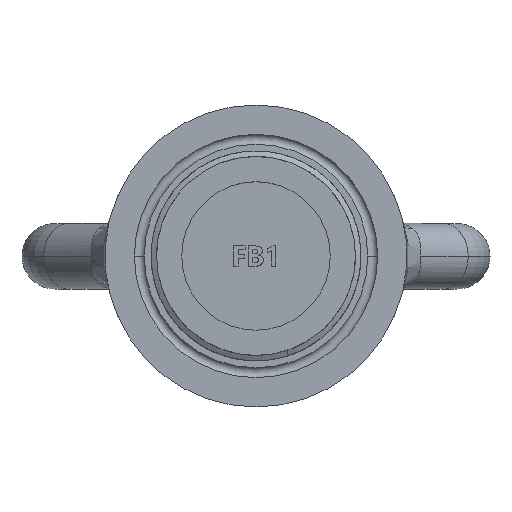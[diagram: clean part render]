
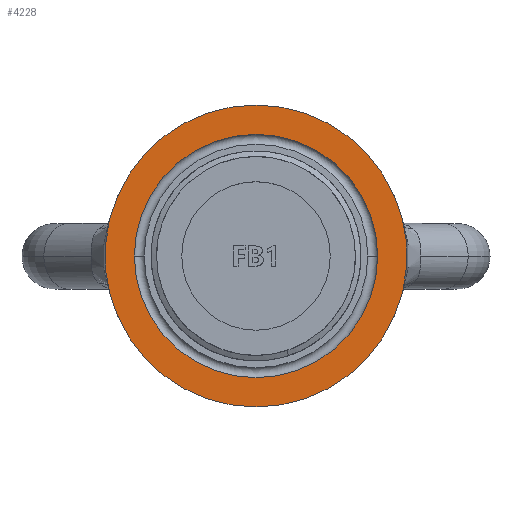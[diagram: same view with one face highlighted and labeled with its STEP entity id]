
A CAD part, top view. The second image highlights one B-rep face of the part: STEP entity #4228.
In plain terms, the highlighted planar face has unit normal (0, 0, 1).
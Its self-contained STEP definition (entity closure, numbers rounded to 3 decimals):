
#56 = DIRECTION ( 'NONE',  ( 1., 0., 0. ) ) ;
#168 = CARTESIAN_POINT ( 'NONE',  ( 75., -5.116, -61.514 ) ) ;
#273 = ORIENTED_EDGE ( 'NONE', *, *, #1366, .T. ) ;
#435 = EDGE_LOOP ( 'NONE', ( #3807, #273, #3146, #654 ) ) ;
#624 = FACE_OUTER_BOUND ( 'NONE', #435, .T. ) ;
#654 = ORIENTED_EDGE ( 'NONE', *, *, #2833, .T. ) ;
#673 = FACE_BOUND ( 'NONE', #982, .T. ) ;
#746 = EDGE_CURVE ( 'NONE', #4065, #3647, #4547, .T. ) ;
#800 = VERTEX_POINT ( 'NONE', #3683 ) ;
#883 = B_SPLINE_CURVE_WITH_KNOTS ( 'NONE', 3,
 ( #3928, #4406, #4845, #4759, #2681, #5249, #4375, #3479, #5190, #2227 ),
 .UNSPECIFIED., .F., .F.,
 ( 4, 2, 2, 2, 4 ),
 ( 0., 0.25, 0.5, 0.75, 1. ),
 .UNSPECIFIED. ) ;
#982 = EDGE_LOOP ( 'NONE', ( #4552, #5330 ) ) ;
#1065 = CARTESIAN_POINT ( 'NONE',  ( 74.482, -10.181, -61.514 ) ) ;
#1269 = CIRCLE ( 'NONE', #3591, 60.429 ) ;
#1366 = EDGE_CURVE ( 'NONE', #2907, #4065, #883, .T. ) ;
#1376 = CARTESIAN_POINT ( 'NONE',  ( 72.409, 20.201, -61.514 ) ) ;
#1379 = VERTEX_POINT ( 'NONE', #5162 ) ;
#1439 = AXIS2_PLACEMENT_3D ( 'NONE', #4042, #3598, #3649 ) ;
#1478 = CARTESIAN_POINT ( 'NONE',  ( 72.409, -20.201, -61.514 ) ) ;
#1596 = CARTESIAN_POINT ( 'NONE',  ( 60.429, 0., -61.514 ) ) ;
#1631 = CARTESIAN_POINT ( 'NONE',  ( 0., 0., -61.514 ) ) ;
#1710 = DIRECTION ( 'NONE',  ( 0., 0., 1. ) ) ;
#1989 = B_SPLINE_CURVE_WITH_KNOTS ( 'NONE', 3,
 ( #3997, #4390, #1478, #1065, #168, #2771, #2663, #1376, #4464, #4857 ),
 .UNSPECIFIED., .F., .F.,
 ( 4, 2, 2, 2, 4 ),
 ( 0., 0.25, 0.5, 0.75, 1. ),
 .UNSPECIFIED. ) ;
#1994 = EDGE_CURVE ( 'NONE', #800, #2907, #5100, .T. ) ;
#2054 = AXIS2_PLACEMENT_3D ( 'NONE', #3893, #1710, #56 ) ;
#2227 = CARTESIAN_POINT ( 'NONE',  ( -68.847, -29.751, -61.514 ) ) ;
#2331 = CARTESIAN_POINT ( 'NONE',  ( -49.4, 0., -61.514 ) ) ;
#2534 = AXIS2_PLACEMENT_3D ( 'NONE', #2331, #4492, #2725 ) ;
#2624 = CIRCLE ( 'NONE', #5116, 60.429 ) ;
#2663 = CARTESIAN_POINT ( 'NONE',  ( 74.482, 10.18, -61.514 ) ) ;
#2681 = CARTESIAN_POINT ( 'NONE',  ( -75., 5.116, -61.514 ) ) ;
#2725 = DIRECTION ( 'NONE',  ( -1., 0., 0. ) ) ;
#2771 = CARTESIAN_POINT ( 'NONE',  ( 75., 5.116, -61.514 ) ) ;
#2833 = EDGE_CURVE ( 'NONE', #3647, #800, #1989, .T. ) ;
#2907 = VERTEX_POINT ( 'NONE', #5236 ) ;
#2986 = CARTESIAN_POINT ( 'NONE',  ( 0., 0., -61.514 ) ) ;
#3146 = ORIENTED_EDGE ( 'NONE', *, *, #746, .T. ) ;
#3479 = CARTESIAN_POINT ( 'NONE',  ( -72.409, -20.2, -61.514 ) ) ;
#3591 = AXIS2_PLACEMENT_3D ( 'NONE', #1631, #5527, #4677 ) ;
#3598 = DIRECTION ( 'NONE',  ( 0., 0., 1. ) ) ;
#3618 = EDGE_CURVE ( 'NONE', #3778, #1379, #1269, .T. ) ;
#3647 = VERTEX_POINT ( 'NONE', #5070 ) ;
#3649 = DIRECTION ( 'NONE',  ( 1., 0., 0. ) ) ;
#3683 = CARTESIAN_POINT ( 'NONE',  ( 68.846, 29.752, -61.514 ) ) ;
#3778 = VERTEX_POINT ( 'NONE', #1596 ) ;
#3807 = ORIENTED_EDGE ( 'NONE', *, *, #1994, .T. ) ;
#3893 = CARTESIAN_POINT ( 'NONE',  ( 0., 0., -61.514 ) ) ;
#3928 = CARTESIAN_POINT ( 'NONE',  ( -68.847, 29.751, -61.514 ) ) ;
#3997 = CARTESIAN_POINT ( 'NONE',  ( 68.846, -29.752, -61.514 ) ) ;
#4042 = CARTESIAN_POINT ( 'NONE',  ( 0., 0., -61.514 ) ) ;
#4065 = VERTEX_POINT ( 'NONE', #5315 ) ;
#4228 = ADVANCED_FACE ( 'NONE', ( #624, #673 ), #4443, .F. ) ;
#4375 = CARTESIAN_POINT ( 'NONE',  ( -74.482, -10.18, -61.514 ) ) ;
#4390 = CARTESIAN_POINT ( 'NONE',  ( 70.876, -25.055, -61.514 ) ) ;
#4406 = CARTESIAN_POINT ( 'NONE',  ( -70.876, 25.055, -61.514 ) ) ;
#4443 = PLANE ( 'NONE',  #2534 ) ;
#4464 = CARTESIAN_POINT ( 'NONE',  ( 70.876, 25.055, -61.514 ) ) ;
#4492 = DIRECTION ( 'NONE',  ( 0., 0., -1. ) ) ;
#4547 = CIRCLE ( 'NONE', #2054, 75. ) ;
#4552 = ORIENTED_EDGE ( 'NONE', *, *, #3618, .F. ) ;
#4677 = DIRECTION ( 'NONE',  ( -1., 0., 0. ) ) ;
#4759 = CARTESIAN_POINT ( 'NONE',  ( -74.482, 10.18, -61.514 ) ) ;
#4845 = CARTESIAN_POINT ( 'NONE',  ( -72.409, 20.2, -61.514 ) ) ;
#4857 = CARTESIAN_POINT ( 'NONE',  ( 68.846, 29.752, -61.514 ) ) ;
#4976 = EDGE_CURVE ( 'NONE', #1379, #3778, #2624, .T. ) ;
#5070 = CARTESIAN_POINT ( 'NONE',  ( 68.846, -29.752, -61.514 ) ) ;
#5100 = CIRCLE ( 'NONE', #1439, 75. ) ;
#5116 = AXIS2_PLACEMENT_3D ( 'NONE', #2986, #5533, #5194 ) ;
#5162 = CARTESIAN_POINT ( 'NONE',  ( -60.429, 0., -61.514 ) ) ;
#5190 = CARTESIAN_POINT ( 'NONE',  ( -70.876, -25.054, -61.514 ) ) ;
#5194 = DIRECTION ( 'NONE',  ( -1., 0., 0. ) ) ;
#5236 = CARTESIAN_POINT ( 'NONE',  ( -68.847, 29.751, -61.514 ) ) ;
#5249 = CARTESIAN_POINT ( 'NONE',  ( -75., -5.116, -61.514 ) ) ;
#5315 = CARTESIAN_POINT ( 'NONE',  ( -68.847, -29.751, -61.514 ) ) ;
#5330 = ORIENTED_EDGE ( 'NONE', *, *, #4976, .F. ) ;
#5527 = DIRECTION ( 'NONE',  ( 0., 0., 1. ) ) ;
#5533 = DIRECTION ( 'NONE',  ( 0., 0., 1. ) ) ;
